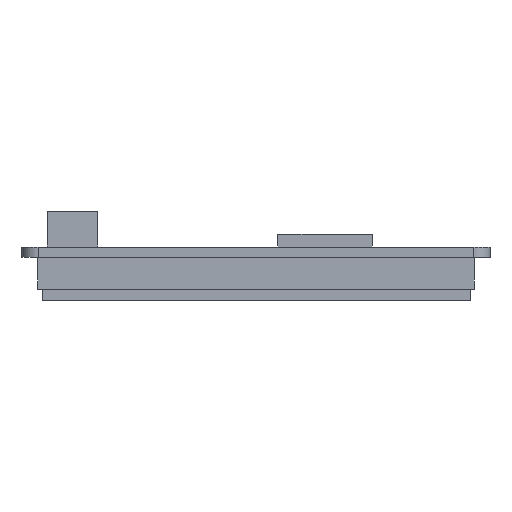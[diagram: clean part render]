
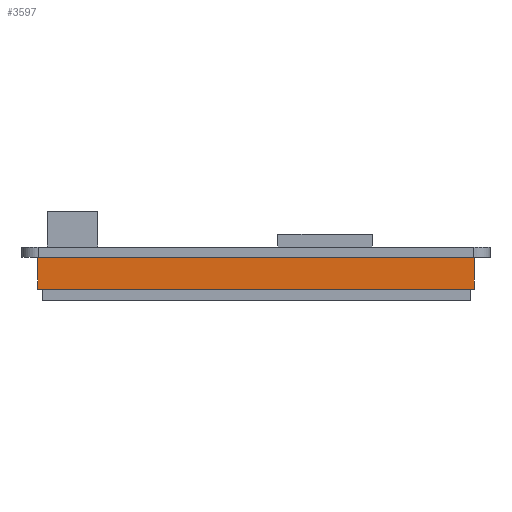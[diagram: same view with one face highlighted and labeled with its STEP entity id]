
A CAD part, left-side view. The second image highlights one B-rep face of the part: STEP entity #3597.
In plain terms, the highlighted planar face has unit normal (-1, 0, 0).
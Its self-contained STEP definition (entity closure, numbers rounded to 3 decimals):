
#129=DIRECTION('',(0.,1.,0.));
#130=VECTOR('',#129,5.08);
#131=CARTESIAN_POINT('',(205.576,277.876,-1.6));
#132=LINE('',#131,#130);
#133=DIRECTION('',(0.,1.,0.));
#134=VECTOR('',#133,5.08);
#135=CARTESIAN_POINT('',(205.576,321.056,-1.6));
#136=LINE('',#135,#134);
#209=DIRECTION('',(0.,1.,0.));
#210=VECTOR('',#209,10.018);
#211=CARTESIAN_POINT('',(205.576,267.858,-1.6));
#212=LINE('',#211,#210);
#225=DIRECTION('',(0.,1.,0.));
#226=VECTOR('',#225,38.1);
#227=CARTESIAN_POINT('',(205.576,282.956,-1.6));
#228=LINE('',#227,#226);
#241=DIRECTION('',(0.,1.,0.));
#242=VECTOR('',#241,10.022);
#243=CARTESIAN_POINT('',(205.576,326.136,-1.6));
#244=LINE('',#243,#242);
#1325=DIRECTION('',(0.,0.,-1.));
#1326=VECTOR('',#1325,5.);
#1327=CARTESIAN_POINT('',(205.576,267.858,-1.6));
#1328=LINE('',#1327,#1326);
#1337=DIRECTION('',(0.,0.,-1.));
#1338=VECTOR('',#1337,5.);
#1339=CARTESIAN_POINT('',(205.576,336.158,-1.6));
#1340=LINE('',#1339,#1338);
#1341=DIRECTION('',(0.,1.,0.));
#1342=VECTOR('',#1341,68.3);
#1343=CARTESIAN_POINT('',(205.576,267.858,-6.6));
#1344=LINE('',#1343,#1342);
#1689=CARTESIAN_POINT('',(205.576,267.858,-6.6));
#1690=CARTESIAN_POINT('',(205.576,336.158,-6.6));
#1691=VERTEX_POINT('',#1689);
#1692=VERTEX_POINT('',#1690);
#1697=CARTESIAN_POINT('',(205.576,267.858,-1.6));
#1698=CARTESIAN_POINT('',(205.576,277.876,-1.6));
#1699=VERTEX_POINT('',#1697);
#1700=VERTEX_POINT('',#1698);
#1701=CARTESIAN_POINT('',(205.576,282.956,-1.6));
#1702=CARTESIAN_POINT('',(205.576,321.056,-1.6));
#1703=VERTEX_POINT('',#1701);
#1704=VERTEX_POINT('',#1702);
#1705=CARTESIAN_POINT('',(205.576,326.136,-1.6));
#1706=CARTESIAN_POINT('',(205.576,336.158,-1.6));
#1707=VERTEX_POINT('',#1705);
#1708=VERTEX_POINT('',#1706);
#3579=CARTESIAN_POINT('',(205.576,267.858,-1.6));
#3580=DIRECTION('',(-1.,0.,0.));
#3581=DIRECTION('',(0.,1.,0.));
#3582=AXIS2_PLACEMENT_3D('',#3579,#3580,#3581);
#3583=PLANE('',#3582);
#3584=ORIENTED_EDGE('',*,*,#2124,.F.);
#3586=ORIENTED_EDGE('',*,*,#3585,.T.);
#3588=ORIENTED_EDGE('',*,*,#3587,.T.);
#3590=ORIENTED_EDGE('',*,*,#3589,.F.);
#3591=ORIENTED_EDGE('',*,*,#2140,.F.);
#3592=ORIENTED_EDGE('',*,*,#1986,.F.);
#3593=ORIENTED_EDGE('',*,*,#2132,.F.);
#3594=ORIENTED_EDGE('',*,*,#1970,.F.);
#3595=EDGE_LOOP('',(#3584,#3586,#3588,#3590,#3591,#3592,#3593,#3594));
#3596=FACE_OUTER_BOUND('',#3595,.F.);
#1970=EDGE_CURVE('',#1700,#1703,#132,.T.);
#1986=EDGE_CURVE('',#1704,#1707,#136,.T.);
#2124=EDGE_CURVE('',#1699,#1700,#212,.T.);
#2132=EDGE_CURVE('',#1703,#1704,#228,.T.);
#2140=EDGE_CURVE('',#1707,#1708,#244,.T.);
#3585=EDGE_CURVE('',#1699,#1691,#1328,.T.);
#3587=EDGE_CURVE('',#1691,#1692,#1344,.T.);
#3589=EDGE_CURVE('',#1708,#1692,#1340,.T.);
#3597=ADVANCED_FACE('',(#3596),#3583,.T.);
